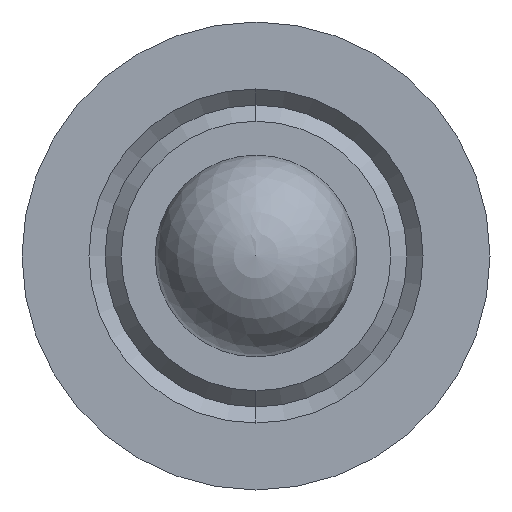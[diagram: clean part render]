
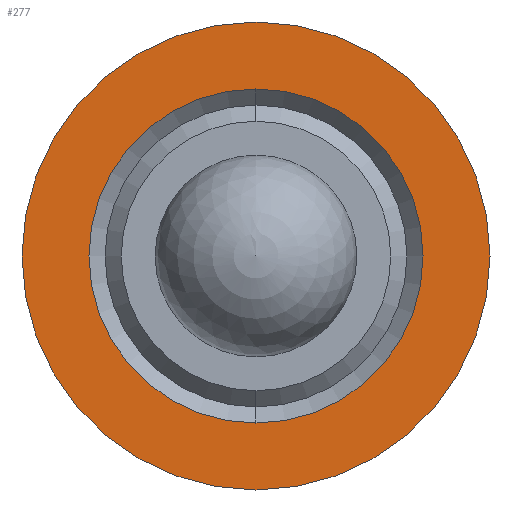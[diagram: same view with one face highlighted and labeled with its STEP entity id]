
A CAD part, left-side view. The second image highlights one B-rep face of the part: STEP entity #277.
In plain terms, the highlighted planar face has unit normal (-1, 0, 0).
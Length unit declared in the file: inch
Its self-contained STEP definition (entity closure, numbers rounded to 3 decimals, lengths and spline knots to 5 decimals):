
#8 = ORIENTED_EDGE ( 'NONE', *, *, #689, .T. ) ;
#75 = DIRECTION ( 'NONE',  ( 0., 0., 1. ) ) ;
#91 = DIRECTION ( 'NONE',  ( 0., 0., -1. ) ) ;
#100 = DIRECTION ( 'NONE',  ( -1., 0., 0. ) ) ;
#102 = CARTESIAN_POINT ( 'NONE',  ( -0.00431, 0.35539, 0.48288 ) ) ;
#120 = DIRECTION ( 'NONE',  ( 0., 0., -1. ) ) ;
#125 = DIRECTION ( 'NONE',  ( 1., 0., 0. ) ) ;
#130 = CARTESIAN_POINT ( 'NONE',  ( -0.00431, 0.35539, 0.48288 ) ) ;
#146 = DIRECTION ( 'NONE',  ( 1., 0., 0. ) ) ;
#199 = CARTESIAN_POINT ( 'NONE',  ( -0.00431, 0.35539, 0.37938 ) ) ;
#207 = CARTESIAN_POINT ( 'NONE',  ( -0.00431, 0.35539, 0.48288 ) ) ;
#222 = AXIS2_PLACEMENT_3D ( 'NONE', #535, #531, #529 ) ;
#234 = CARTESIAN_POINT ( 'NONE',  ( -0.00431, 0.35539, 0.33788 ) ) ;
#274 = CIRCLE ( 'NONE', #222, 0.1035 ) ;
#277 = ADVANCED_FACE ( 'NONE', ( #536, #1493 ), #455, .F. ) ;
#421 = EDGE_CURVE ( 'NONE', #822, #887, #593, .T. ) ;
#455 = PLANE ( 'NONE',  #877 ) ;
#502 = EDGE_CURVE ( 'NONE', #1266, #704, #274, .T. ) ;
#529 = DIRECTION ( 'NONE',  ( 0., 0., -1. ) ) ;
#531 = DIRECTION ( 'NONE',  ( 1., 0., 0. ) ) ;
#535 = CARTESIAN_POINT ( 'NONE',  ( -0.00431, 0.35539, 0.48288 ) ) ;
#536 = FACE_BOUND ( 'NONE', #1364, .T. ) ;
#572 = CIRCLE ( 'NONE', #1012, 0.1035 ) ;
#593 = CIRCLE ( 'NONE', #1153, 0.145 ) ;
#644 = ORIENTED_EDGE ( 'NONE', *, *, #421, .T. ) ;
#689 = EDGE_CURVE ( 'NONE', #704, #1266, #572, .T. ) ;
#704 = VERTEX_POINT ( 'NONE', #199 ) ;
#712 = EDGE_CURVE ( 'NONE', #887, #822, #1189, .T. ) ;
#822 = VERTEX_POINT ( 'NONE', #992 ) ;
#877 = AXIS2_PLACEMENT_3D ( 'NONE', #207, #146, #91 ) ;
#887 = VERTEX_POINT ( 'NONE', #234 ) ;
#924 = DIRECTION ( 'NONE',  ( 0., 0., 1. ) ) ;
#925 = DIRECTION ( 'NONE',  ( -1., 0., 0. ) ) ;
#929 = CARTESIAN_POINT ( 'NONE',  ( -0.00431, 0.35539, 0.48288 ) ) ;
#939 = ORIENTED_EDGE ( 'NONE', *, *, #502, .T. ) ;
#951 = AXIS2_PLACEMENT_3D ( 'NONE', #102, #100, #75 ) ;
#992 = CARTESIAN_POINT ( 'NONE',  ( -0.00431, 0.35539, 0.62788 ) ) ;
#1012 = AXIS2_PLACEMENT_3D ( 'NONE', #130, #125, #120 ) ;
#1040 = CARTESIAN_POINT ( 'NONE',  ( -0.00431, 0.35539, 0.58638 ) ) ;
#1153 = AXIS2_PLACEMENT_3D ( 'NONE', #929, #925, #924 ) ;
#1189 = CIRCLE ( 'NONE', #951, 0.145 ) ;
#1200 = ORIENTED_EDGE ( 'NONE', *, *, #712, .T. ) ;
#1231 = EDGE_LOOP ( 'NONE', ( #644, #1200 ) ) ;
#1266 = VERTEX_POINT ( 'NONE', #1040 ) ;
#1364 = EDGE_LOOP ( 'NONE', ( #939, #8 ) ) ;
#1493 = FACE_OUTER_BOUND ( 'NONE', #1231, .T. ) ;
